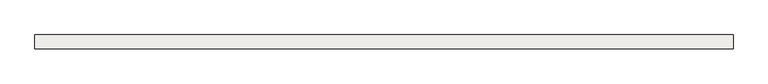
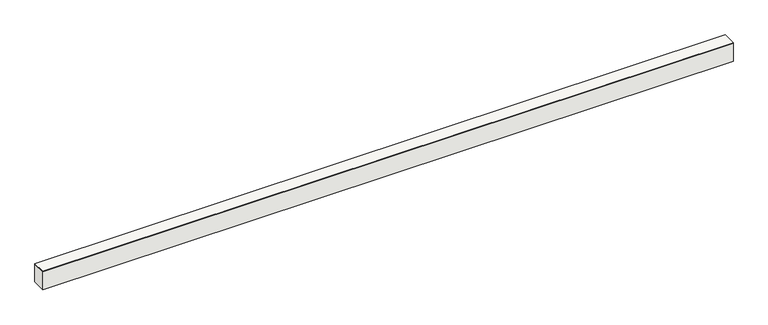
"""IFC4 building model written with IfcOpenShell, lengths in millimetres: slab geometry, Sol-02 - dalle béton 30cm + finition 1cm."""

from ifc_helpers import new_model, si_unit, frame, origin, origin_with_axes, place, context, project, spatial, polyline, outline, extrude, source, transform, mapped, element, save


def slab_49eb4083(model_context):
    return source(origin(), model_context, "Body", "SweptSolid", [
        extrude(outline(polyline([(47394.9999799, 18933.1349964), (36415.0000007, 18933.1349964), (36415.0000007, 19149.9999995), (47394.9999799, 19149.9999995), (47394.9999799, 18933.1349964)])), frame((0.0, 0.0, 300.0), z_axis=(0.0, 0.0, 1.0), x_axis=(1.0, 0.0, 0.0)), (0.0, 0.0, 1.0), 10.0),
        extrude(outline(polyline([(36415.0000007, 18933.1349964), (36415.0000007, 19149.9999995), (47394.9999799, 19149.9999995), (47394.9999799, 18933.1349964), (36415.0000007, 18933.1349964)])), origin_with_axes(), (0.0, 0.0, 1.0), 300.0),
    ])


if __name__ == "__main__":
    model = new_model("IFC4")
    model_context = context("Model", 3, world=origin())
    ifc_project = project(units=[si_unit("LENGTHUNIT", "METRE", prefix="MILLI")], contexts=[model_context])
    site = spatial("IfcSite", under=ifc_project)
    building = spatial("IfcBuilding", under=site)
    placement = place(None, origin())
    slab_shape = slab_49eb4083(model_context)
    element("IfcSlab", 1, ObjectType="Sol-02 - dalle béton 30cm + finition 1cm", at=placement, inside=building, context=model_context, shape_type="MappedRepresentation", body=[
        mapped(slab_shape, transform((0.0, 0.0, 0.0), x_axis=(1.0, 0.0, 0.0), y_axis=(0.0, 1.0, 0.0), z_axis=(0.0, 0.0, 1.0))),
    ])
    save(model, "model.ifc")
